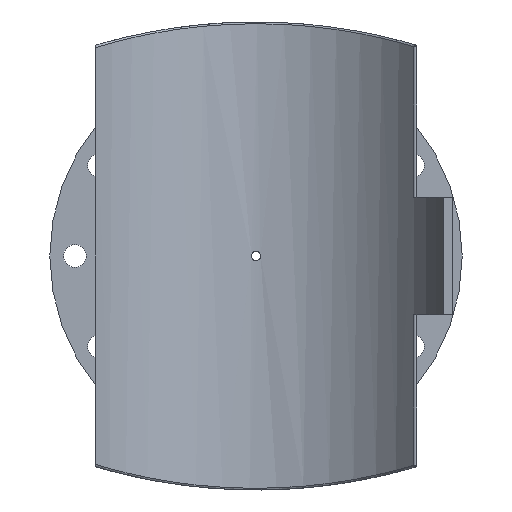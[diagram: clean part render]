
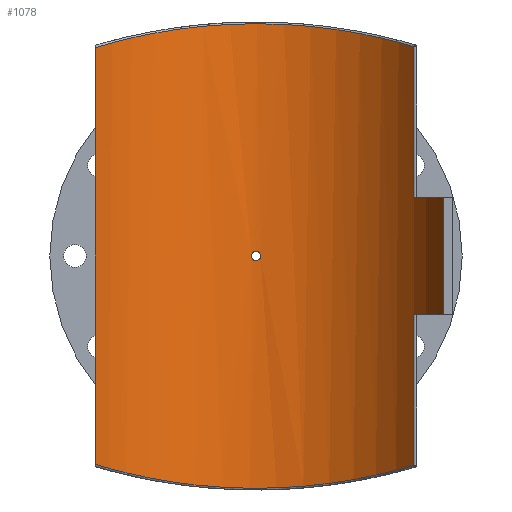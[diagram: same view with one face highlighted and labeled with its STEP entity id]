
A CAD part, front view. The second image highlights one B-rep face of the part: STEP entity #1078.
In plain terms, the highlighted cylindrical face has radius 225 mm (diameter 450 mm), a partial arc.
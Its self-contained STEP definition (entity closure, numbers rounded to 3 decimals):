
#55=FACE_BOUND('',#355,.T.);
#109=B_SPLINE_CURVE_WITH_KNOTS('',3,(#2219,#2220,#2221,#2222,#2223,#2224,
#2225,#2226,#2227,#2228),.UNSPECIFIED.,.F.,.F.,(4,1,1,1,1,1,1,4),(-50.186,
-44.092,-37.999,-31.905,-25.811,
-19.717,-13.623,-7.53),.UNSPECIFIED.);
#110=B_SPLINE_CURVE_WITH_KNOTS('',3,(#2237,#2238,#2239,#2240,#2241,#2242,
#2243,#2244,#2245,#2246),.UNSPECIFIED.,.F.,.F.,(4,1,1,1,1,1,1,4),(-47.131,
-41.037,-34.944,-28.85,-22.756,
-16.662,-10.569,-4.475),.UNSPECIFIED.);
#111=B_SPLINE_CURVE_WITH_KNOTS('',3,(#2249,#2250,#2251,#2252,#2253,#2254,
#2255,#2256,#2257,#2258),.UNSPECIFIED.,.F.,.F.,(4,2,2,2,4),(0.,0.196,
0.392,0.588,0.784),.UNSPECIFIED.);
#112=B_SPLINE_CURVE_WITH_KNOTS('',3,(#2259,#2260,#2261,#2262,#2263,#2264,
#2265,#2266,#2267,#2268,#2269,#2270,#2271,#2272,#2273,#2274,#2275,#2276,
#2277,#2278,#2279,#2280,#2281,#2282,#2283,#2284),.UNSPECIFIED.,.F.,.F.,
(4,2,2,2,2,2,2,2,2,2,2,2,4),(0.784,0.979,1.175,
1.371,1.567,1.763,1.959,2.155,
2.351,2.546,2.742,2.938,3.134),
 .UNSPECIFIED.);
#133=LINE('',#1615,#184);
#144=LINE('',#1907,#195);
#151=LINE('',#2233,#202);
#152=LINE('',#2236,#203);
#184=VECTOR('',#1292,10.);
#195=VECTOR('',#1331,10.);
#202=VECTOR('',#1368,10.);
#203=VECTOR('',#1371,10.);
#244=CYLINDRICAL_SURFACE('',#1175,225.);
#288=FACE_OUTER_BOUND('',#354,.T.);
#354=EDGE_LOOP('',(#839,#840,#841,#842,#843,#844,#845,#846));
#355=EDGE_LOOP('',(#847,#848));
#449=CIRCLE('',#1176,225.);
#450=CIRCLE('',#1177,225.);
#510=VERTEX_POINT('',#1606);
#513=VERTEX_POINT('',#1613);
#533=VERTEX_POINT('',#1900);
#536=VERTEX_POINT('',#1905);
#549=VERTEX_POINT('',#2199);
#550=VERTEX_POINT('',#2230);
#551=VERTEX_POINT('',#2232);
#552=VERTEX_POINT('',#2235);
#553=VERTEX_POINT('',#2247);
#554=VERTEX_POINT('',#2248);
#613=EDGE_CURVE('',#513,#510,#133,.T.);
#643=EDGE_CURVE('',#536,#533,#144,.T.);
#666=EDGE_CURVE('',#549,#536,#109,.T.);
#667=EDGE_CURVE('',#550,#513,#449,.T.);
#668=EDGE_CURVE('',#550,#551,#151,.T.);
#669=EDGE_CURVE('',#533,#551,#450,.T.);
#670=EDGE_CURVE('',#552,#549,#152,.T.);
#671=EDGE_CURVE('',#510,#552,#110,.T.);
#672=EDGE_CURVE('',#553,#554,#111,.T.);
#673=EDGE_CURVE('',#554,#553,#112,.T.);
#839=ORIENTED_EDGE('',*,*,#667,.F.);
#840=ORIENTED_EDGE('',*,*,#668,.T.);
#841=ORIENTED_EDGE('',*,*,#669,.F.);
#842=ORIENTED_EDGE('',*,*,#643,.F.);
#843=ORIENTED_EDGE('',*,*,#666,.F.);
#844=ORIENTED_EDGE('',*,*,#670,.F.);
#845=ORIENTED_EDGE('',*,*,#671,.F.);
#846=ORIENTED_EDGE('',*,*,#613,.F.);
#847=ORIENTED_EDGE('',*,*,#672,.T.);
#848=ORIENTED_EDGE('',*,*,#673,.T.);
#1078=ADVANCED_FACE('',(#288,#55),#244,.F.);
#1175=AXIS2_PLACEMENT_3D('',#2229,#1364,#1365);
#1176=AXIS2_PLACEMENT_3D('',#2231,#1366,#1367);
#1177=AXIS2_PLACEMENT_3D('',#2234,#1369,#1370);
#1292=DIRECTION('',(0.,0.,-1.));
#1331=DIRECTION('',(0.,0.,-1.));
#1364=DIRECTION('center_axis',(0.,0.,1.));
#1365=DIRECTION('ref_axis',(-1.,0.,0.));
#1366=DIRECTION('center_axis',(0.,0.,1.));
#1367=DIRECTION('ref_axis',(-0.944,-0.33,0.));
#1368=DIRECTION('',(0.,0.,1.));
#1369=DIRECTION('center_axis',(0.,0.,-1.));
#1370=DIRECTION('ref_axis',(-0.944,-0.33,0.));
#1371=DIRECTION('',(0.,0.,1.));
#1606=CARTESIAN_POINT('',(178.662,136.766,-237.006));
#1613=CARTESIAN_POINT('',(178.662,136.766,-66.25));
#1615=CARTESIAN_POINT('',(178.662,136.766,0.));
#1900=CARTESIAN_POINT('',(178.662,136.766,66.25));
#1905=CARTESIAN_POINT('',(178.662,136.766,237.006));
#1907=CARTESIAN_POINT('',(178.662,136.766,0.));
#2199=CARTESIAN_POINT('',(-182.25,131.947,235.928));
#2219=CARTESIAN_POINT('Ctrl Pts',(-182.25,131.947,235.928));
#2220=CARTESIAN_POINT('Ctrl Pts',(-170.622,148.007,239.459));
#2221=CARTESIAN_POINT('Ctrl Pts',(-143.171,176.965,247.056));
#2222=CARTESIAN_POINT('Ctrl Pts',(-91.871,208.312,257.072));
#2223=CARTESIAN_POINT('Ctrl Pts',(-33.573,225.235,263.078));
#2224=CARTESIAN_POINT('Ctrl Pts',(27.449,226.063,263.381));
#2225=CARTESIAN_POINT('Ctrl Pts',(86.239,210.714,257.9));
#2226=CARTESIAN_POINT('Ctrl Pts',(138.403,180.721,248.179));
#2227=CARTESIAN_POINT('Ctrl Pts',(166.615,152.503,240.586));
#2228=CARTESIAN_POINT('Ctrl Pts',(178.662,136.766,237.006));
#2229=CARTESIAN_POINT('Origin',(0.,0.,0.));
#2230=CARTESIAN_POINT('',(212.363,74.344,-66.25));
#2231=CARTESIAN_POINT('Origin',(0.,0.,
-66.25));
#2232=CARTESIAN_POINT('',(212.363,74.344,66.25));
#2233=CARTESIAN_POINT('',(212.363,74.344,0.));
#2234=CARTESIAN_POINT('Origin',(0.,0.,
66.25));
#2235=CARTESIAN_POINT('',(-182.25,131.947,-235.928));
#2236=CARTESIAN_POINT('',(-182.25,131.947,0.));
#2237=CARTESIAN_POINT('Ctrl Pts',(178.662,136.766,-237.006));
#2238=CARTESIAN_POINT('Ctrl Pts',(166.615,152.503,-240.586));
#2239=CARTESIAN_POINT('Ctrl Pts',(138.403,180.722,-248.179));
#2240=CARTESIAN_POINT('Ctrl Pts',(86.238,210.713,-257.899));
#2241=CARTESIAN_POINT('Ctrl Pts',(27.45,226.065,-263.383));
#2242=CARTESIAN_POINT('Ctrl Pts',(-33.572,225.232,-263.075));
#2243=CARTESIAN_POINT('Ctrl Pts',(-91.873,208.313,-257.074));
#2244=CARTESIAN_POINT('Ctrl Pts',(-143.171,176.964,-247.056));
#2245=CARTESIAN_POINT('Ctrl Pts',(-170.622,148.007,-239.459));
#2246=CARTESIAN_POINT('Ctrl Pts',(-182.25,131.947,-235.928));
#2247=CARTESIAN_POINT('',(5.2,224.94,0.));
#2248=CARTESIAN_POINT('',(0.,225.,-5.2));
#2249=CARTESIAN_POINT('Ctrl Pts',(5.2,224.94,0.));
#2250=CARTESIAN_POINT('Ctrl Pts',(5.2,224.94,-0.653));
#2251=CARTESIAN_POINT('Ctrl Pts',(5.07,224.943,-1.349));
#2252=CARTESIAN_POINT('Ctrl Pts',(4.539,224.954,-2.631));
#2253=CARTESIAN_POINT('Ctrl Pts',(4.139,224.962,-3.215));
#2254=CARTESIAN_POINT('Ctrl Pts',(3.215,224.977,-4.139));
#2255=CARTESIAN_POINT('Ctrl Pts',(2.631,224.986,-4.539));
#2256=CARTESIAN_POINT('Ctrl Pts',(1.349,224.997,-5.07));
#2257=CARTESIAN_POINT('Ctrl Pts',(0.653,225.,-5.2));
#2258=CARTESIAN_POINT('Ctrl Pts',(0.,225.,-5.2));
#2259=CARTESIAN_POINT('Ctrl Pts',(0.,225.,-5.2));
#2260=CARTESIAN_POINT('Ctrl Pts',(-0.653,225.,-5.2));
#2261=CARTESIAN_POINT('Ctrl Pts',(-1.349,224.997,-5.07));
#2262=CARTESIAN_POINT('Ctrl Pts',(-2.631,224.986,-4.539));
#2263=CARTESIAN_POINT('Ctrl Pts',(-3.215,224.977,-4.139));
#2264=CARTESIAN_POINT('Ctrl Pts',(-4.139,224.962,-3.215));
#2265=CARTESIAN_POINT('Ctrl Pts',(-4.539,224.954,-2.631));
#2266=CARTESIAN_POINT('Ctrl Pts',(-5.07,224.943,-1.349));
#2267=CARTESIAN_POINT('Ctrl Pts',(-5.2,224.94,-0.653));
#2268=CARTESIAN_POINT('Ctrl Pts',(-5.2,224.94,0.653));
#2269=CARTESIAN_POINT('Ctrl Pts',(-5.07,224.943,1.349));
#2270=CARTESIAN_POINT('Ctrl Pts',(-4.539,224.954,2.631));
#2271=CARTESIAN_POINT('Ctrl Pts',(-4.139,224.962,3.215));
#2272=CARTESIAN_POINT('Ctrl Pts',(-3.215,224.977,4.139));
#2273=CARTESIAN_POINT('Ctrl Pts',(-2.631,224.986,4.539));
#2274=CARTESIAN_POINT('Ctrl Pts',(-1.349,224.997,5.07));
#2275=CARTESIAN_POINT('Ctrl Pts',(-0.653,225.,5.2));
#2276=CARTESIAN_POINT('Ctrl Pts',(0.653,225.,5.2));
#2277=CARTESIAN_POINT('Ctrl Pts',(1.349,224.997,5.07));
#2278=CARTESIAN_POINT('Ctrl Pts',(2.631,224.986,4.539));
#2279=CARTESIAN_POINT('Ctrl Pts',(3.215,224.977,4.139));
#2280=CARTESIAN_POINT('Ctrl Pts',(4.139,224.962,3.215));
#2281=CARTESIAN_POINT('Ctrl Pts',(4.539,224.954,2.631));
#2282=CARTESIAN_POINT('Ctrl Pts',(5.07,224.943,1.349));
#2283=CARTESIAN_POINT('Ctrl Pts',(5.2,224.94,0.653));
#2284=CARTESIAN_POINT('Ctrl Pts',(5.2,224.94,0.));
